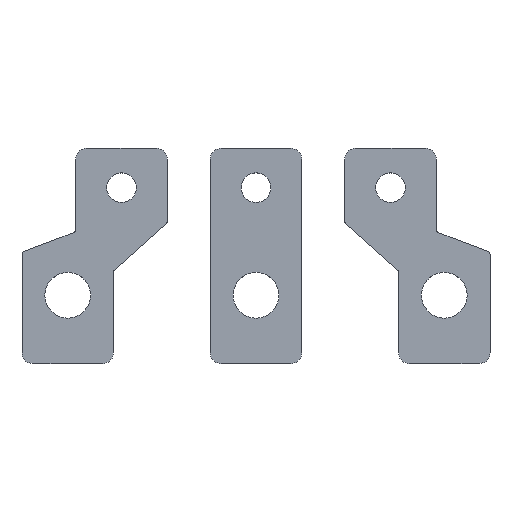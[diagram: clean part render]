
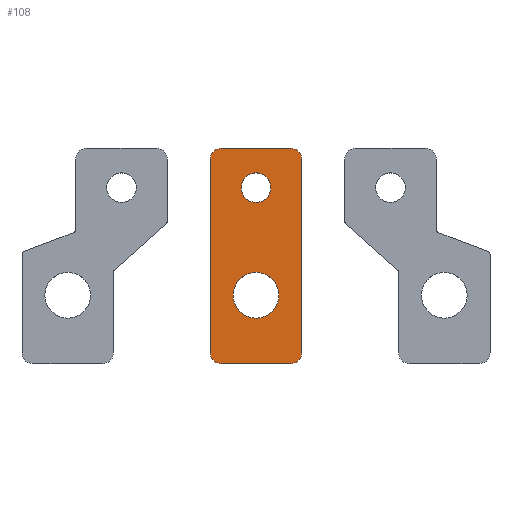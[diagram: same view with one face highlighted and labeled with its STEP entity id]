
A CAD part, top view. The second image highlights one B-rep face of the part: STEP entity #108.
In plain terms, the highlighted planar face has unit normal (0, 0, 1) as drawn and (0, 0, -1) by its records, which use the part's own axes.
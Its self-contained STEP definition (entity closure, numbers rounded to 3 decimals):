
#6 = CARTESIAN_POINT ( 'NONE',  ( 8.5, 30.7, 0. ) ) ;
#16 = AXIS2_PLACEMENT_3D ( 'NONE', #967, #171, #378 ) ;
#26 = CARTESIAN_POINT ( 'NONE',  ( 4.25, 20., 0. ) ) ;
#45 = EDGE_CURVE ( 'NONE', #239, #479, #644, .T. ) ;
#53 = CARTESIAN_POINT ( 'NONE',  ( -6.5, -5.3, 0. ) ) ;
#87 = DIRECTION ( 'NONE',  ( 0., 0., 1. ) ) ;
#88 = VERTEX_POINT ( 'NONE', #684 ) ;
#97 = CIRCLE ( 'NONE', #309, 2. ) ;
#101 = VERTEX_POINT ( 'NONE', #577 ) ;
#108 = ADVANCED_FACE ( 'NONE', ( #642, #314, #111 ), #1190, .F. ) ;
#111 = FACE_BOUND ( 'NONE', #541, .T. ) ;
#113 = ORIENTED_EDGE ( 'NONE', *, *, #800, .T. ) ;
#119 = DIRECTION ( 'NONE',  ( 0., 0., 1. ) ) ;
#124 = VECTOR ( 'NONE', #922, 1000. ) ;
#128 = ORIENTED_EDGE ( 'NONE', *, *, #393, .F. ) ;
#130 = CARTESIAN_POINT ( 'NONE',  ( 6.5, -7.3, 0. ) ) ;
#143 = DIRECTION ( 'NONE',  ( 0., 0., 1. ) ) ;
#158 = DIRECTION ( 'NONE',  ( 0., 0., -1. ) ) ;
#159 = ORIENTED_EDGE ( 'NONE', *, *, #1094, .F. ) ;
#162 = CARTESIAN_POINT ( 'NONE',  ( -8.5, 32.7, 0. ) ) ;
#171 = DIRECTION ( 'NONE',  ( 0., 0., 1. ) ) ;
#212 = VERTEX_POINT ( 'NONE', #1111 ) ;
#220 = CARTESIAN_POINT ( 'NONE',  ( 8.5, 32.7, 0. ) ) ;
#231 = CIRCLE ( 'NONE', #1115, 4.25 ) ;
#239 = VERTEX_POINT ( 'NONE', #812 ) ;
#249 = CARTESIAN_POINT ( 'NONE',  ( 0., 20., 0. ) ) ;
#250 = LINE ( 'NONE', #162, #1289 ) ;
#251 = EDGE_CURVE ( 'NONE', #101, #822, #1104, .T. ) ;
#253 = LINE ( 'NONE', #741, #1136 ) ;
#270 = CARTESIAN_POINT ( 'NONE',  ( -8.5, -5.3, 0. ) ) ;
#274 = DIRECTION ( 'NONE',  ( 0., 0., -1. ) ) ;
#301 = ORIENTED_EDGE ( 'NONE', *, *, #45, .T. ) ;
#309 = AXIS2_PLACEMENT_3D ( 'NONE', #53, #1062, #657 ) ;
#314 = FACE_BOUND ( 'NONE', #355, .T. ) ;
#346 = AXIS2_PLACEMENT_3D ( 'NONE', #1263, #952, #765 ) ;
#354 = VERTEX_POINT ( 'NONE', #26 ) ;
#355 = EDGE_LOOP ( 'NONE', ( #728, #301 ) ) ;
#369 = CARTESIAN_POINT ( 'NONE',  ( 0., 0., 0. ) ) ;
#377 = CARTESIAN_POINT ( 'NONE',  ( -4.25, 20., 0. ) ) ;
#378 = DIRECTION ( 'NONE',  ( 1., 0., 0. ) ) ;
#393 = EDGE_CURVE ( 'NONE', #712, #756, #443, .T. ) ;
#403 = AXIS2_PLACEMENT_3D ( 'NONE', #535, #119, #736 ) ;
#418 = AXIS2_PLACEMENT_3D ( 'NONE', #1068, #274, #1073 ) ;
#426 = CIRCLE ( 'NONE', #346, 2. ) ;
#443 = LINE ( 'NONE', #220, #124 ) ;
#447 = EDGE_CURVE ( 'NONE', #604, #680, #253, .T. ) ;
#479 = VERTEX_POINT ( 'NONE', #1046 ) ;
#482 = ORIENTED_EDGE ( 'NONE', *, *, #615, .T. ) ;
#535 = CARTESIAN_POINT ( 'NONE',  ( 0., 20., 0. ) ) ;
#541 = EDGE_LOOP ( 'NONE', ( #113, #944 ) ) ;
#577 = CARTESIAN_POINT ( 'NONE',  ( -6.5, -7.3, 0. ) ) ;
#604 = VERTEX_POINT ( 'NONE', #1271 ) ;
#615 = EDGE_CURVE ( 'NONE', #101, #680, #97, .T. ) ;
#641 = DIRECTION ( 'NONE',  ( 1., 0., 0. ) ) ;
#642 = FACE_OUTER_BOUND ( 'NONE', #1071, .T. ) ;
#644 = CIRCLE ( 'NONE', #16, 2.75 ) ;
#645 = AXIS2_PLACEMENT_3D ( 'NONE', #369, #685, #1174 ) ;
#649 = ORIENTED_EDGE ( 'NONE', *, *, #1139, .T. ) ;
#657 = DIRECTION ( 'NONE',  ( 1., 0., 0. ) ) ;
#680 = VERTEX_POINT ( 'NONE', #270 ) ;
#684 = CARTESIAN_POINT ( 'NONE',  ( -6.5, 32.7, 0. ) ) ;
#685 = DIRECTION ( 'NONE',  ( 0., 0., 1. ) ) ;
#698 = EDGE_CURVE ( 'NONE', #479, #239, #910, .T. ) ;
#700 = CARTESIAN_POINT ( 'NONE',  ( -8.5, -7.3, 0. ) ) ;
#712 = VERTEX_POINT ( 'NONE', #908 ) ;
#721 = CIRCLE ( 'NONE', #1044, 2. ) ;
#728 = ORIENTED_EDGE ( 'NONE', *, *, #698, .T. ) ;
#730 = VERTEX_POINT ( 'NONE', #377 ) ;
#736 = DIRECTION ( 'NONE',  ( 1., 0., 0. ) ) ;
#741 = CARTESIAN_POINT ( 'NONE',  ( -8.5, 32.7, 0. ) ) ;
#756 = VERTEX_POINT ( 'NONE', #6 ) ;
#765 = DIRECTION ( 'NONE',  ( 1., 0., 0. ) ) ;
#800 = EDGE_CURVE ( 'NONE', #730, #354, #829, .T. ) ;
#812 = CARTESIAN_POINT ( 'NONE',  ( 2.75, 0., 0. ) ) ;
#822 = VERTEX_POINT ( 'NONE', #130 ) ;
#829 = CIRCLE ( 'NONE', #403, 4.25 ) ;
#834 = DIRECTION ( 'NONE',  ( 0., -1., 0. ) ) ;
#865 = DIRECTION ( 'NONE',  ( -1., 0., 0. ) ) ;
#872 = DIRECTION ( 'NONE',  ( 1., 0., 0. ) ) ;
#908 = CARTESIAN_POINT ( 'NONE',  ( 8.5, -5.3, 0. ) ) ;
#910 = CIRCLE ( 'NONE', #1124, 2.75 ) ;
#922 = DIRECTION ( 'NONE',  ( 0., 1., 0. ) ) ;
#928 = VECTOR ( 'NONE', #1097, 1000. ) ;
#944 = ORIENTED_EDGE ( 'NONE', *, *, #1041, .T. ) ;
#952 = DIRECTION ( 'NONE',  ( 0., 0., -1. ) ) ;
#967 = CARTESIAN_POINT ( 'NONE',  ( 0., 0., 0. ) ) ;
#975 = ORIENTED_EDGE ( 'NONE', *, *, #1176, .T. ) ;
#984 = CARTESIAN_POINT ( 'NONE',  ( 0., 0., 0. ) ) ;
#1009 = ORIENTED_EDGE ( 'NONE', *, *, #251, .F. ) ;
#1041 = EDGE_CURVE ( 'NONE', #354, #730, #231, .T. ) ;
#1044 = AXIS2_PLACEMENT_3D ( 'NONE', #1058, #158, #1275 ) ;
#1046 = CARTESIAN_POINT ( 'NONE',  ( -2.75, 0., 0. ) ) ;
#1058 = CARTESIAN_POINT ( 'NONE',  ( 6.5, -5.3, 0. ) ) ;
#1062 = DIRECTION ( 'NONE',  ( 0., 0., -1. ) ) ;
#1068 = CARTESIAN_POINT ( 'NONE',  ( 6.5, 30.7, 0. ) ) ;
#1071 = EDGE_LOOP ( 'NONE', ( #128, #649, #1009, #482, #1089, #1088, #159, #975 ) ) ;
#1073 = DIRECTION ( 'NONE',  ( 1., 0., 0. ) ) ;
#1081 = CIRCLE ( 'NONE', #418, 2. ) ;
#1088 = ORIENTED_EDGE ( 'NONE', *, *, #1157, .T. ) ;
#1089 = ORIENTED_EDGE ( 'NONE', *, *, #447, .F. ) ;
#1094 = EDGE_CURVE ( 'NONE', #212, #88, #250, .T. ) ;
#1097 = DIRECTION ( 'NONE',  ( 1., 0., 0. ) ) ;
#1104 = LINE ( 'NONE', #700, #928 ) ;
#1111 = CARTESIAN_POINT ( 'NONE',  ( 6.5, 32.7, 0. ) ) ;
#1115 = AXIS2_PLACEMENT_3D ( 'NONE', #249, #143, #641 ) ;
#1124 = AXIS2_PLACEMENT_3D ( 'NONE', #984, #87, #872 ) ;
#1136 = VECTOR ( 'NONE', #834, 1000. ) ;
#1139 = EDGE_CURVE ( 'NONE', #712, #822, #721, .T. ) ;
#1157 = EDGE_CURVE ( 'NONE', #604, #88, #426, .T. ) ;
#1174 = DIRECTION ( 'NONE',  ( 1., 0., 0. ) ) ;
#1176 = EDGE_CURVE ( 'NONE', #212, #756, #1081, .T. ) ;
#1190 = PLANE ( 'NONE',  #645 ) ;
#1263 = CARTESIAN_POINT ( 'NONE',  ( -6.5, 30.7, 0. ) ) ;
#1271 = CARTESIAN_POINT ( 'NONE',  ( -8.5, 30.7, 0. ) ) ;
#1275 = DIRECTION ( 'NONE',  ( 1., 0., 0. ) ) ;
#1289 = VECTOR ( 'NONE', #865, 1000. ) ;
